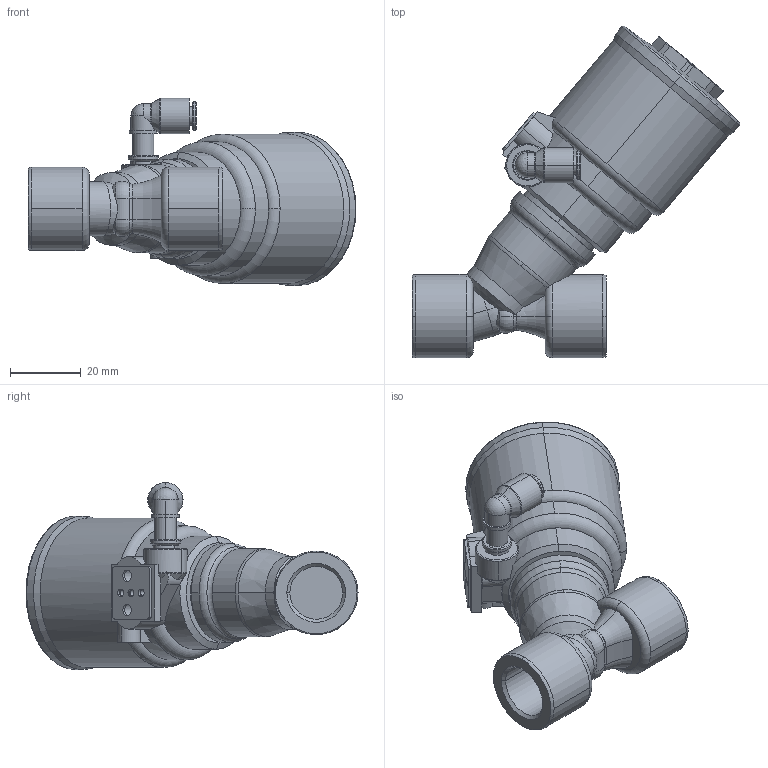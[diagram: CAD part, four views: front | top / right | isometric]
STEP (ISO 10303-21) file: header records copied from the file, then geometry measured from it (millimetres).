
FILE_DESCRIPTION(('STEP AP214'),'1');
FILE_NAME(' ',' ',('TraceParts'),('TraceParts S.A.'),'XStep 1.0',' ',' ');
FILE_SCHEMA(('automotive_design'));
Length unit declared in the file: millimetre
Products named in the file (2): 1; 2
Bounding box: 92.88 x 94.03 x 53.05 mm (x, y, z)
Volume: 98371.4 mm3; surface area: 19530.2 mm2
Topology: 2 solids, 2 shells, 263 faces, 686 edges, 441 vertices
Faces by surface type: cylinder 104, plane 67, torus 62, cone 23, sphere 7
Entity records: 9793 total; most frequent: CARTESIAN_POINT 3158, DIRECTION 1511, ORIENTED_EDGE 1354, EDGE_CURVE 677, AXIS2_PLACEMENT_3D 666, VERTEX_POINT 441, CIRCLE 392, EDGE_LOOP 288
